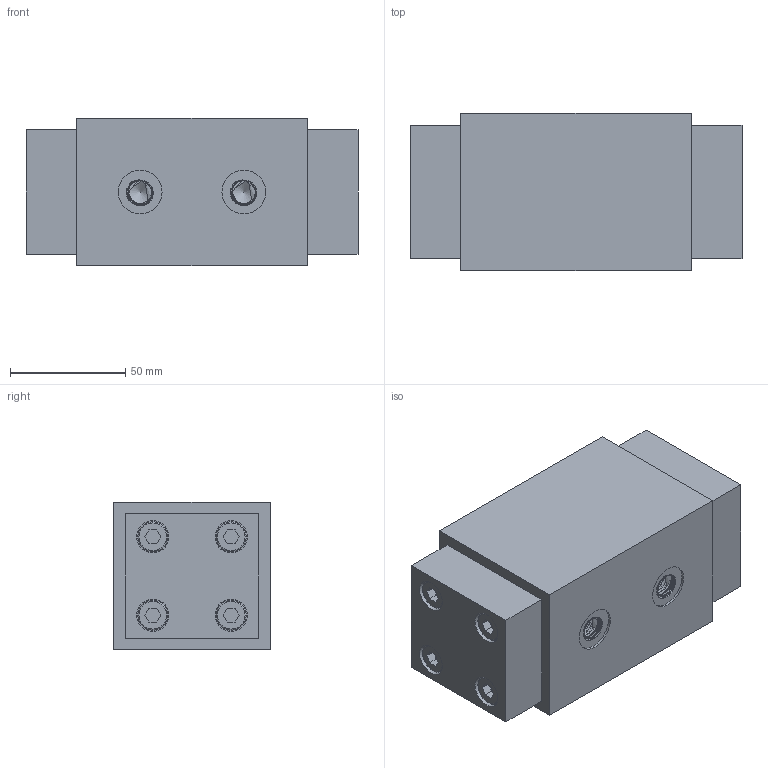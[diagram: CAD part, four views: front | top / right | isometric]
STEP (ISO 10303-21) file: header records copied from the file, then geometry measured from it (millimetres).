
FILE_DESCRIPTION(/* description */ (''),/* implementation_level */ '2;1');
FILE_NAME(/* name */ '20.stp',/* time_stamp */ '2023-05-01T20:42:14+08:00',/* author */ (''),/* organization */ (''),/* preprocessor_version */ 'ST-DEVELOPER v16.7',/* originating_system */ 'SIEMENS PLM Software NX 12.0',/* authorisation */ '');
FILE_SCHEMA (('AUTOMOTIVE_DESIGN { 1 0 10303 214 3 1 1 1 }'));
Length unit declared in the file: millimetre
Products named in the file (1): 20
Bounding box: 144 x 68 x 64 mm (x, y, z)
Volume: 551815.5 mm3; surface area: 87936.7 mm2
Topology: 11 solids, 11 shells, 251 faces, 615 edges, 408 vertices
Faces by surface type: plane 147, cylinder 68, cone 19, bspline 9, torus 8
Full cylindrical faces by diameter (mm): 6.8 x8, 8 x8, 9 x11, 13 x8, 14 x8, 19 x2, 21 x1
Entity records: 16957 total; most frequent: CARTESIAN_POINT 11423, DIRECTION 1101, ORIENTED_EDGE 976, EDGE_CURVE 488, AXIS2_PLACEMENT_3D 408, EDGE_LOOP 387, VERTEX_POINT 372, LINE 285
